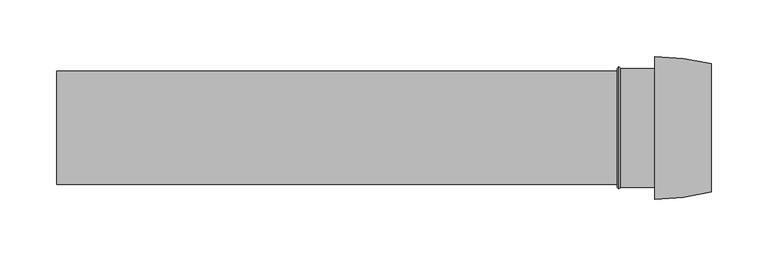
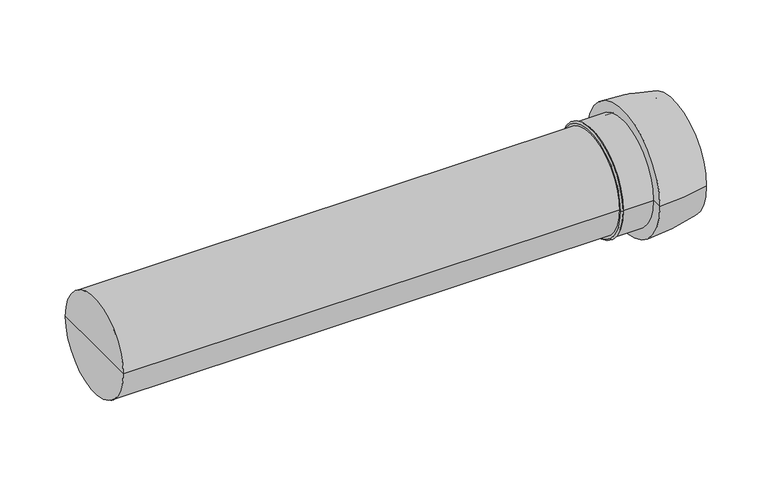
"""IFC4 building model written with IfcOpenShell, lengths in millimetres: duct segment geometry, NLRS_57_AIR_DUF_Easysafe verl pijp PP_M&G : Easysafe verlengpijp."""

from ifc_helpers import new_model, si_unit, point, frame, origin, place, context, project, spatial, polyline, circle_curve, ellipse_curve, trimmed, source, transform, mapped, element, save
from ifc_brep_helpers import plane_surface, cylinder_surface, revolved_surface, advanced_brep


def duct_segment_8274237e(model_context):
    return source(origin(), model_context, "Body", "AdvancedBrep", [
        advanced_brep(
        [(0.0, 0.0, 0.0), (0.0, 50.0, 0.0), (0.0, -50.0, 0.0), (526.9753293, -63.0, 0.0), (526.9753293, 63.0, 0.0), (576.9753293, 56.6491673, 0.0), (576.9753293, -56.6491673, 0.0), (526.9753293, -52.5, 0.0), (526.9753293, 52.5, 0.0), (496.9753293, -52.5, 0.0), (496.9753293, 52.5, 0.0), (493.9753293, 50.0, 0.0), (493.9753293, -50.0, 0.0), (576.9753293, 50.0, 0.0), (576.9753293, -50.0, 0.0), (495.4753293, -54.0, 0.0), (495.4753293, 54.0, 0.0), (493.9753293, -52.5, 0.0), (493.9753293, 52.5, 0.0), (526.9753293, -50.0, 0.0), (526.9753293, 50.0, 0.0), (526.9753293, 0.0, 0.0)],
        [
            (0, 1),
            (1, 2, circle_curve(frame((0.0, 0.0, 0.0), z_axis=(-1.0, 0.0, 0.0), x_axis=(0.0, 1.0, 0.0)), 50.0)),
            (2, 0),
            (2, 1, circle_curve(frame((0.0, 0.0, 0.0), z_axis=(-1.0, 0.0, 0.0), x_axis=(0.0, 1.0, 0.0)), 50.0)),
            (3, 4, circle_curve(frame((526.9753293, 0.0, 0.0), z_axis=(1.0, 0.0, 0.0), x_axis=(0.0, 1.0, 0.0)), 63.0)),
            (4, 5, circle_curve(frame((526.9753293, -137.0, 0.0), z_axis=(0.0, 0.0, -1.0), x_axis=(1.0, 0.0, 0.0)), 200.0)),
            (5, 6, circle_curve(frame((576.9753293, 0.0, 0.0), z_axis=(-1.0, 0.0, 0.0), x_axis=(0.0, 1.0, 0.0)), 56.6491673)),
            (6, 3, circle_curve(frame((526.9753293, 137.0, 0.0), z_axis=(0.0, 0.0, -1.0), x_axis=(1.0, 0.0, 0.0)), 200.0)),
            (4, 3, circle_curve(frame((526.9753293, 0.0, 0.0), z_axis=(1.0, 0.0, 0.0), x_axis=(0.0, 1.0, 0.0)), 63.0)),
            (6, 5, circle_curve(frame((576.9753293, 0.0, 0.0), z_axis=(-1.0, 0.0, 0.0), x_axis=(0.0, 1.0, 0.0)), 56.6491673)),
            (7, 8, circle_curve(frame((526.9753293, 0.0, 0.0), z_axis=(1.0, 0.0, 0.0), x_axis=(0.0, 1.0, 0.0)), 52.5)),
            (8, 4),
            (3, 7),
            (8, 7, circle_curve(frame((526.9753293, 0.0, 0.0), z_axis=(1.0, 0.0, 0.0), x_axis=(0.0, 1.0, 0.0)), 52.5)),
            (9, 10, circle_curve(frame((496.9753293, 0.0, 0.0), z_axis=(1.0, 0.0, 0.0), x_axis=(0.0, 1.0, 0.0)), 52.5)),
            (10, 8),
            (7, 9),
            (10, 9, circle_curve(frame((496.9753293, 0.0, 0.0), z_axis=(1.0, 0.0, 0.0), x_axis=(0.0, 1.0, 0.0)), 52.5)),
            (1, 11),
            (11, 12, circle_curve(frame((493.9753293, 0.0, 0.0), z_axis=(-1.0, 0.0, 0.0), x_axis=(0.0, 1.0, 0.0)), 50.0)),
            (12, 2),
            (12, 11, circle_curve(frame((493.9753293, 0.0, 0.0), z_axis=(-1.0, 0.0, 0.0), x_axis=(0.0, 1.0, 0.0)), 50.0)),
            (5, 13),
            (13, 14, circle_curve(frame((576.9753293, 0.0, 0.0), z_axis=(-1.0, 0.0, 0.0), x_axis=(0.0, 1.0, 0.0)), 50.0)),
            (14, 6),
            (14, 13, circle_curve(frame((576.9753293, 0.0, 0.0), z_axis=(-1.0, 0.0, 0.0), x_axis=(0.0, 1.0, 0.0)), 50.0)),
            (15, 16, circle_curve(frame((495.4753293, 0.0, 0.0), z_axis=(1.0, 0.0, 0.0), x_axis=(0.0, 1.0, 0.0)), 54.0)),
            (16, 10),
            (9, 15),
            (16, 15, circle_curve(frame((495.4753293, 0.0, 0.0), z_axis=(1.0, 0.0, 0.0), x_axis=(0.0, 1.0, 0.0)), 54.0)),
            (17, 18, circle_curve(frame((493.9753293, 0.0, 0.0), z_axis=(1.0, 0.0, 0.0), x_axis=(0.0, 1.0, 0.0)), 52.5)),
            (18, 16),
            (15, 17),
            (18, 17, circle_curve(frame((493.9753293, 0.0, 0.0), z_axis=(1.0, 0.0, 0.0), x_axis=(0.0, 1.0, 0.0)), 52.5)),
            (11, 18),
            (17, 12),
            (19, 20, circle_curve(frame((526.9753293, 0.0, 0.0), z_axis=(1.0, 0.0, 0.0), x_axis=(0.0, 1.0, 0.0)), 50.0)),
            (20, 21),
            (21, 19),
            (20, 19, circle_curve(frame((526.9753293, 0.0, 0.0), z_axis=(1.0, 0.0, 0.0), x_axis=(0.0, 1.0, 0.0)), 50.0)),
            (13, 20),
            (19, 14),
        ],
        [
            plane_surface(frame((0.0, 0.0, 0.0), z_axis=(-1.0, 0.0, 0.0), x_axis=(0.0, 1.0, 0.0))),
            revolved_surface(trimmed(ellipse_curve(frame((526.9753293, -137.0, 0.0), z_axis=(0.0, 0.0, 1.0), x_axis=(1.0, 0.0, 0.0)), 200.0, 200.0), [point((576.9753293, 56.6491673, 0.0))], [point((526.9753293, 63.0, 0.0))], True, "CARTESIAN"), (-500.0, 0.0, 0.0), (-1.0, 0.0, 0.0)),
            plane_surface(frame((526.9753293, 0.0, 0.0), z_axis=(-1.0, 0.0, 0.0), x_axis=(0.0, 1.0, 0.0))),
            cylinder_surface(frame((-500.0, 0.0, 0.0), z_axis=(-1.0, 0.0, 0.0), x_axis=(0.0, 1.0, 0.0)), 52.5),
            cylinder_surface(frame((-500.0, 0.0, 0.0), z_axis=(-1.0, 0.0, 0.0), x_axis=(0.0, 1.0, 0.0)), 50.0),
            plane_surface(frame((576.9753293, 0.0, 0.0), z_axis=(1.0, 0.0, 0.0), x_axis=(0.0, 1.0, 0.0))),
            revolved_surface(polyline([(496.9753293, 52.5, 0.0), (495.4753293, 54.0, 0.0)]), (-500.0, 0.0, 0.0), (-1.0, 0.0, 0.0)),
            revolved_surface(polyline([(495.4753293, 54.0, 0.0), (493.9753293, 52.5, 0.0)]), (-500.0, 0.0, 0.0), (-1.0, 0.0, 0.0)),
            plane_surface(frame((493.9753293, 0.0, 0.0), z_axis=(-1.0, 0.0, 0.0), x_axis=(0.0, 1.0, 0.0))),
            plane_surface(frame((526.9753293, 0.0, 0.0), z_axis=(1.0, 0.0, 0.0), x_axis=(0.0, 1.0, 0.0))),
            revolved_surface(polyline([(526.9753292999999, 50.0, 0.0), (576.9753292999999, 50.0, 0.0)]), (-500.0, 0.0, 0.0), (-1.0, 0.0, 0.0)),
        ],
        [
            (0, [[1, 2, 3]]),
            (0, [[-3, 4, -1]]),
            (1, [[5, 6, 7, 8]]),
            (1, [[9, -8, 10, -6]]),
            (2, [[11, 12, -5, 13]]),
            (2, [[14, -13, -9, -12]]),
            (3, [[15, 16, -11, 17]]),
            (3, [[18, -17, -14, -16]]),
            (4, [[-2, 19, 20, 21]]),
            (4, [[-4, -21, 22, -19]]),
            (5, [[-7, 23, 24, 25]]),
            (5, [[-10, -25, 26, -23]]),
            (6, [[27, 28, -15, 29]]),
            (6, [[30, -29, -18, -28]]),
            (7, [[31, 32, -27, 33]]),
            (7, [[34, -33, -30, -32]]),
            (8, [[-20, 35, -31, 36]]),
            (8, [[-22, -36, -34, -35]]),
            (9, [[37, 38, 39]]),
            (9, [[40, -39, -38]]),
            (10, [[-24, 41, -37, 42]]),
            (10, [[-26, -42, -40, -41]]),
        ],
    ),
    ])


if __name__ == "__main__":
    model = new_model("IFC4")
    model_context = context("Model", 3, world=origin())
    ifc_project = project(units=[si_unit("LENGTHUNIT", "METRE", prefix="MILLI")], contexts=[model_context])
    site = spatial("IfcSite", under=ifc_project)
    building = spatial("IfcBuilding", under=site)
    placement = place(None, origin())
    duct_segment_shape = duct_segment_8274237e(model_context)
    element("IfcDuctSegment", 1, ObjectType="NLRS_57_AIR_DUF_Easysafe verl pijp PP_M&G : Easysafe verlengpijp", at=placement, inside=building, context=model_context, shape_type="MappedRepresentation", body=[
        mapped(duct_segment_shape, transform((0.0, 0.0, 0.0), x_axis=(1.0, 0.0, 0.0), y_axis=(0.0, 1.0, 0.0), z_axis=(0.0, 0.0, 1.0))),
    ])
    save(model, "model.ifc")
